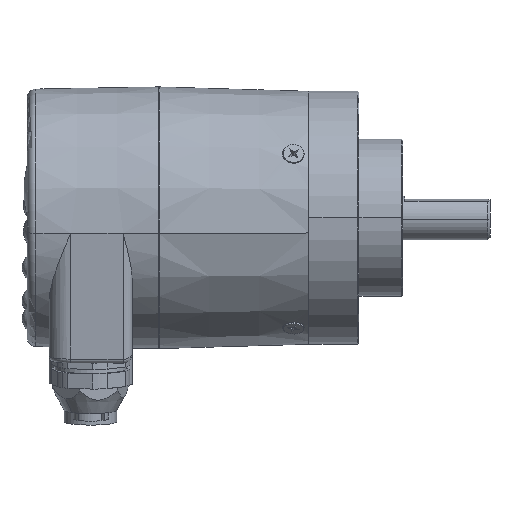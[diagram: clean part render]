
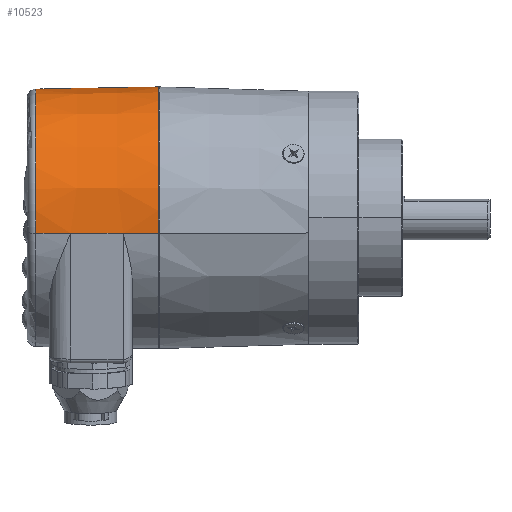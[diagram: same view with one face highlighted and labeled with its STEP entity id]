
A CAD part, top view. The second image highlights one B-rep face of the part: STEP entity #10523.
In plain terms, the highlighted conical face has half-angle 1 degrees and reference radius 30 mm.
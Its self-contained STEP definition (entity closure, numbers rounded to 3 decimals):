
#3143 = FACE_OUTER_BOUND ( 'NONE', #10524, .T. ) ;
#3482 = CARTESIAN_POINT ( 'NONE',  ( -33.47, 0.191, 0. ) ) ;
#3483 = AXIS2_PLACEMENT_3D ( 'NONE', #3482, #3486, #3485 ) ;
#3484 = CONICAL_SURFACE ( 'NONE', #3483, 30., 0.017 ) ;
#3485 = DIRECTION ( 'NONE',  ( 0., 0.122, -0.993 ) ) ;
#3486 = DIRECTION ( 'NONE',  ( 1., 0., 0. ) ) ;
#3490 = CARTESIAN_POINT ( 'NONE',  ( -61.505, -3.406, 29.291 ) ) ;
#3491 = DIRECTION ( 'NONE',  ( 0., -0.122, 0.993 ) ) ;
#3492 = DIRECTION ( 'NONE',  ( 1., 0., 0. ) ) ;
#3493 = CARTESIAN_POINT ( 'NONE',  ( -61.505, 0.191, 0. ) ) ;
#3494 = AXIS2_PLACEMENT_3D ( 'NONE', #3493, #3492, #3491 ) ;
#3495 = CIRCLE ( 'NONE', #3494, 29.511 ) ;
#3496 = CARTESIAN_POINT ( 'NONE',  ( -61.505, 3.787, -29.291 ) ) ;
#4710 = DIRECTION ( 'NONE',  ( 1., 0.002, -0.017 ) ) ;
#4711 = VECTOR ( 'NONE', #4710, 1000. ) ;
#4712 = CARTESIAN_POINT ( 'NONE',  ( -33.993, 3.846, -29.767 ) ) ;
#4713 = LINE ( 'NONE', #4712, #4711 ) ;
#4714 = CARTESIAN_POINT ( 'NONE',  ( -41.505, 3.83, -29.637 ) ) ;
#4715 = DIRECTION ( 'NONE',  ( 1., 0.002, -0.017 ) ) ;
#4716 = VECTOR ( 'NONE', #4715, 1000. ) ;
#4717 = CARTESIAN_POINT ( 'NONE',  ( -33.47, 3.847, -29.776 ) ) ;
#4718 = LINE ( 'NONE', #4717, #4716 ) ;
#4719 = CARTESIAN_POINT ( 'NONE',  ( -33.47, 3.847, -29.776 ) ) ;
#4720 = DIRECTION ( 'NONE',  ( 0., 0.122, -0.993 ) ) ;
#4721 = DIRECTION ( 'NONE',  ( 1., 0., 0. ) ) ;
#4722 = CARTESIAN_POINT ( 'NONE',  ( -33.47, 0.191, 0. ) ) ;
#4723 = AXIS2_PLACEMENT_3D ( 'NONE', #4722, #4721, #4720 ) ;
#4789 = DIRECTION ( 'NONE',  ( 1., 0.002, -0.017 ) ) ;
#4790 = VECTOR ( 'NONE', #4789, 1000. ) ;
#4791 = CARTESIAN_POINT ( 'NONE',  ( -33.47, 3.847, -29.776 ) ) ;
#4792 = LINE ( 'NONE', #4791, #4790 ) ;
#4793 = CARTESIAN_POINT ( 'NONE',  ( -53.557, 3.804, -29.428 ) ) ;
#4844 = CIRCLE ( 'NONE', #4723, 30. ) ;
#4845 = CARTESIAN_POINT ( 'NONE',  ( -33.47, -3.465, 29.776 ) ) ;
#4846 = DIRECTION ( 'NONE',  ( 1., -0.002, 0.017 ) ) ;
#4847 = VECTOR ( 'NONE', #4846, 1000. ) ;
#4848 = CARTESIAN_POINT ( 'NONE',  ( -33.47, -3.465, 29.776 ) ) ;
#4853 = LINE ( 'NONE', #4848, #4847 ) ;
#5530 = CARTESIAN_POINT ( 'NONE',  ( -41.505, -3.448, 29.637 ) ) ;
#5531 = DIRECTION ( 'NONE',  ( 1., -0.002, 0.017 ) ) ;
#5532 = VECTOR ( 'NONE', #5531, 1000. ) ;
#5533 = CARTESIAN_POINT ( 'NONE',  ( -33.993, -3.464, 29.767 ) ) ;
#5558 = CARTESIAN_POINT ( 'NONE',  ( -53.557, -3.423, 29.428 ) ) ;
#5559 = LINE ( 'NONE', #5533, #5532 ) ;
#5705 = DIRECTION ( 'NONE',  ( 1., -0.002, 0.017 ) ) ;
#5706 = VECTOR ( 'NONE', #5705, 1000. ) ;
#5707 = CARTESIAN_POINT ( 'NONE',  ( -33.47, -3.465, 29.776 ) ) ;
#5708 = LINE ( 'NONE', #5707, #5706 ) ;
#10523 = ADVANCED_FACE ( 'NONE', ( #3143 ), #3484, .T. ) ;
#10524 = EDGE_LOOP ( 'NONE', ( #10525, #10529, #10532, #10588, #10591, #10594, #10597, #10600 ) ) ;
#10525 = ORIENTED_EDGE ( 'NONE', *, *, #10526, .T. ) ;
#10526 = EDGE_CURVE ( 'NONE', #10527, #10528, #3495, .T. ) ;
#10527 = VERTEX_POINT ( 'NONE', #3496 ) ;
#10528 = VERTEX_POINT ( 'NONE', #3490 ) ;
#10529 = ORIENTED_EDGE ( 'NONE', *, *, #10530, .T. ) ;
#10530 = EDGE_CURVE ( 'NONE', #10528, #10531, #5708, .T. ) ;
#10531 = VERTEX_POINT ( 'NONE', #5558 ) ;
#10532 = ORIENTED_EDGE ( 'NONE', *, *, #10533, .T. ) ;
#10533 = EDGE_CURVE ( 'NONE', #10531, #10534, #5559, .T. ) ;
#10534 = VERTEX_POINT ( 'NONE', #5530 ) ;
#10588 = ORIENTED_EDGE ( 'NONE', *, *, #10589, .T. ) ;
#10589 = EDGE_CURVE ( 'NONE', #10534, #10590, #4853, .T. ) ;
#10590 = VERTEX_POINT ( 'NONE', #4845 ) ;
#10591 = ORIENTED_EDGE ( 'NONE', *, *, #10592, .F. ) ;
#10592 = EDGE_CURVE ( 'NONE', #10593, #10590, #4844, .T. ) ;
#10593 = VERTEX_POINT ( 'NONE', #4719 ) ;
#10594 = ORIENTED_EDGE ( 'NONE', *, *, #10595, .F. ) ;
#10595 = EDGE_CURVE ( 'NONE', #10596, #10593, #4718, .T. ) ;
#10596 = VERTEX_POINT ( 'NONE', #4714 ) ;
#10597 = ORIENTED_EDGE ( 'NONE', *, *, #10598, .F. ) ;
#10598 = EDGE_CURVE ( 'NONE', #10599, #10596, #4713, .T. ) ;
#10599 = VERTEX_POINT ( 'NONE', #4793 ) ;
#10600 = ORIENTED_EDGE ( 'NONE', *, *, #10601, .F. ) ;
#10601 = EDGE_CURVE ( 'NONE', #10527, #10599, #4792, .T. ) ;
